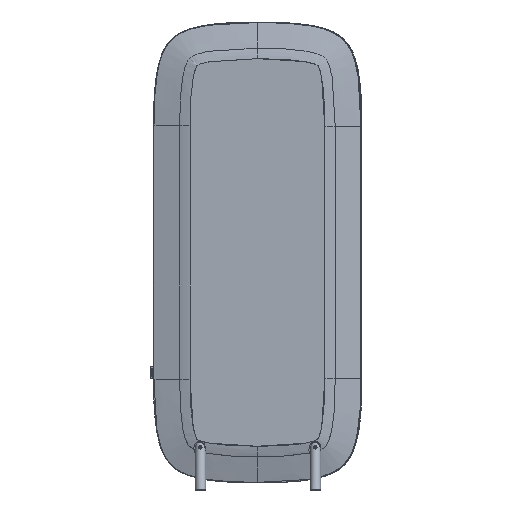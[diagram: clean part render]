
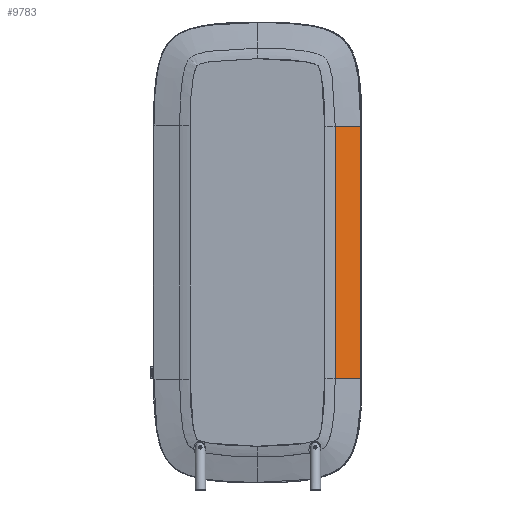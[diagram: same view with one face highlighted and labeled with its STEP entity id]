
A CAD part, left-side view. The second image highlights one B-rep face of the part: STEP entity #9783.
In plain terms, the highlighted planar face has unit normal (-0.966, -0.257, 0).
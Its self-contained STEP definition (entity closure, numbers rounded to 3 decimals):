
#793=FACE_OUTER_BOUND('',#1351,.T.);
#1351=EDGE_LOOP('',(#6701,#6702,#6703,#6704));
#2458=LINE('',#16788,#3181);
#2490=LINE('',#19754,#3213);
#2491=LINE('',#19757,#3214);
#2492=LINE('',#19758,#3215);
#3181=VECTOR('',#10975,10.);
#3213=VECTOR('',#11057,10.);
#3214=VECTOR('',#11060,10.);
#3215=VECTOR('',#11061,10.);
#3942=VERTEX_POINT('',#16456);
#3944=VERTEX_POINT('',#16787);
#3996=VERTEX_POINT('',#19731);
#3997=VERTEX_POINT('',#19756);
#4985=EDGE_CURVE('',#3942,#3944,#2458,.F.);
#5070=EDGE_CURVE('',#3996,#3942,#2490,.T.);
#5071=EDGE_CURVE('',#3996,#3997,#2491,.T.);
#5072=EDGE_CURVE('',#3997,#3944,#2492,.T.);
#6701=ORIENTED_EDGE('',*,*,#5070,.F.);
#6702=ORIENTED_EDGE('',*,*,#5071,.T.);
#6703=ORIENTED_EDGE('',*,*,#5072,.T.);
#6704=ORIENTED_EDGE('',*,*,#4985,.F.);
#9534=PLANE('',#10403);
#9783=ADVANCED_FACE('',(#793),#9534,.F.);
#10403=AXIS2_PLACEMENT_3D('',#19755,#11058,#11059);
#10975=DIRECTION('',(0.,0.,-1.));
#11057=DIRECTION('',(-0.257,0.966,0.));
#11058=DIRECTION('center_axis',(0.966,0.257,0.));
#11059=DIRECTION('ref_axis',(-0.257,0.966,0.));
#11060=DIRECTION('',(0.,0.,1.));
#11061=DIRECTION('',(-0.257,0.966,0.));
#16456=CARTESIAN_POINT('',(-38.597,-648.296,-450.));
#16787=CARTESIAN_POINT('',(-38.597,-648.296,521.));
#16788=CARTESIAN_POINT('',(-38.597,-648.296,-450.));
#19731=CARTESIAN_POINT('',(-12.323,-747.102,-450.));
#19754=CARTESIAN_POINT('',(-12.323,-747.102,-450.));
#19755=CARTESIAN_POINT('Origin',(-12.323,-747.102,-450.));
#19756=CARTESIAN_POINT('',(-12.323,-747.102,521.));
#19757=CARTESIAN_POINT('',(-12.323,-747.102,-450.));
#19758=CARTESIAN_POINT('',(-12.323,-747.102,521.));
